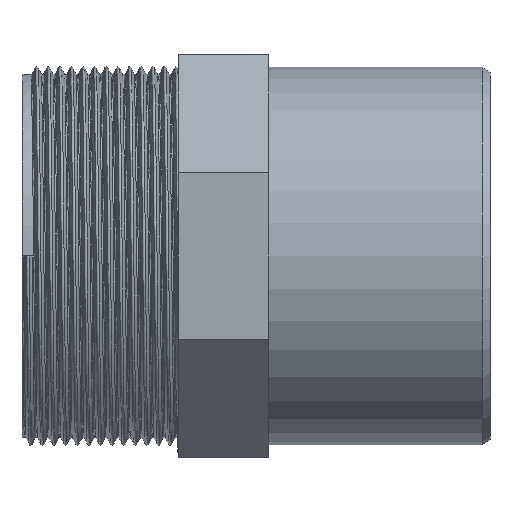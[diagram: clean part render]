
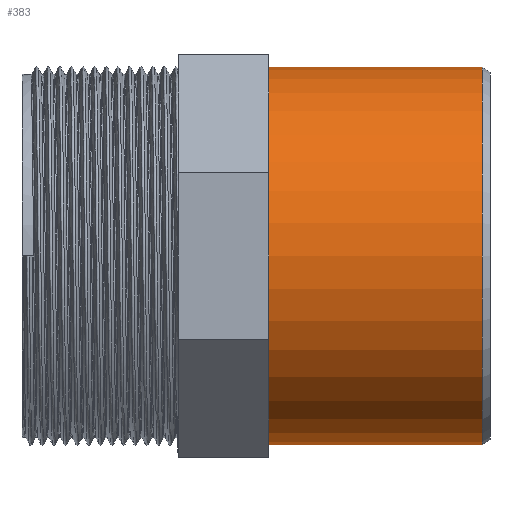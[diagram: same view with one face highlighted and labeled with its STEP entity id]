
A CAD part, left-side view. The second image highlights one B-rep face of the part: STEP entity #383.
In plain terms, the highlighted cylindrical face has radius 37.5 mm (diameter 75 mm), a full revolution.
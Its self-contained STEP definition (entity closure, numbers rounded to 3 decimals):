
#100=CYLINDRICAL_SURFACE('',#413,37.5);
#106=FACE_BOUND('',#145,.T.);
#117=FACE_OUTER_BOUND('',#144,.T.);
#144=EDGE_LOOP('',(#281));
#145=EDGE_LOOP('',(#282));
#179=CIRCLE('',#411,37.5);
#181=CIRCLE('',#414,37.5);
#192=VERTEX_POINT('',#543);
#194=VERTEX_POINT('',#548);
#228=EDGE_CURVE('',#192,#192,#179,.T.);
#230=EDGE_CURVE('',#194,#194,#181,.T.);
#281=ORIENTED_EDGE('',*,*,#230,.F.);
#282=ORIENTED_EDGE('',*,*,#228,.F.);
#383=ADVANCED_FACE('',(#117,#106),#100,.T.);
#411=AXIS2_PLACEMENT_3D('',#544,#448,#449);
#413=AXIS2_PLACEMENT_3D('',#547,#452,#453);
#414=AXIS2_PLACEMENT_3D('',#549,#454,#455);
#448=DIRECTION('center_axis',(0.,-1.,0.));
#449=DIRECTION('ref_axis',(-1.,0.,0.));
#452=DIRECTION('center_axis',(0.,-1.,0.));
#453=DIRECTION('ref_axis',(-1.,0.,0.));
#454=DIRECTION('center_axis',(0.,1.,0.));
#455=DIRECTION('ref_axis',(-1.,0.,0.));
#543=CARTESIAN_POINT('',(37.5,-51.5,0.));
#544=CARTESIAN_POINT('Origin',(0.,-51.5,0.));
#547=CARTESIAN_POINT('Origin',(0.,-9.,0.));
#548=CARTESIAN_POINT('',(37.5,-9.,0.));
#549=CARTESIAN_POINT('Origin',(0.,-9.,0.));
